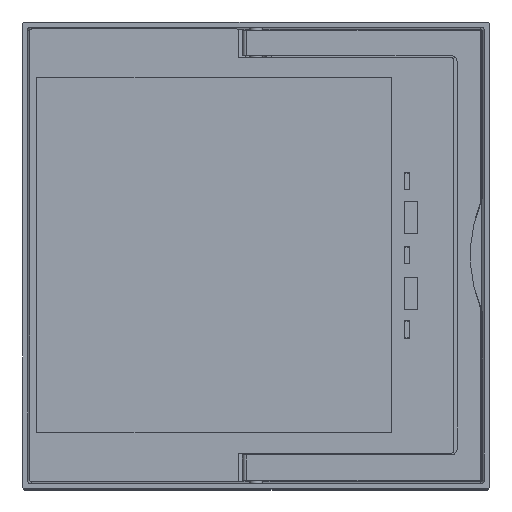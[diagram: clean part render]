
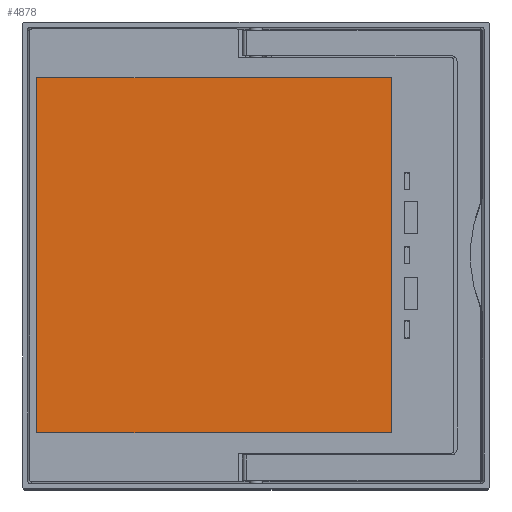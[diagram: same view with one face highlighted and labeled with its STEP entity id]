
A CAD part, top view. The second image highlights one B-rep face of the part: STEP entity #4878.
In plain terms, the highlighted planar face has unit normal (0, 0, 1).
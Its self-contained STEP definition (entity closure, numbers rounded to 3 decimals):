
#226=PLANE('',#5227);
#487=FACE_OUTER_BOUND('',#766,.T.);
#766=EDGE_LOOP('',(#4075,#4076,#4077,#4078));
#1386=LINE('',#8206,#1891);
#1390=LINE('',#8214,#1895);
#1393=LINE('',#8220,#1898);
#1396=LINE('',#8225,#1901);
#1891=VECTOR('',#6203,304.8);
#1895=VECTOR('',#6209,304.8);
#1898=VECTOR('',#6214,304.8);
#1901=VECTOR('',#6219,304.8);
#2356=VERTEX_POINT('',#8204);
#2357=VERTEX_POINT('',#8205);
#2360=VERTEX_POINT('',#8213);
#2362=VERTEX_POINT('',#8219);
#2977=EDGE_CURVE('',#2356,#2357,#1386,.T.);
#2981=EDGE_CURVE('',#2360,#2356,#1390,.T.);
#2984=EDGE_CURVE('',#2362,#2360,#1393,.T.);
#2987=EDGE_CURVE('',#2357,#2362,#1396,.T.);
#4075=ORIENTED_EDGE('',*,*,#2987,.T.);
#4076=ORIENTED_EDGE('',*,*,#2984,.T.);
#4077=ORIENTED_EDGE('',*,*,#2981,.T.);
#4078=ORIENTED_EDGE('',*,*,#2977,.T.);
#4878=ADVANCED_FACE('',(#487),#226,.T.);
#5227=AXIS2_PLACEMENT_3D('',#8228,#6223,#6224);
#6203=DIRECTION('',(-1.,0.,0.));
#6209=DIRECTION('',(0.,1.,0.));
#6214=DIRECTION('',(1.,0.,0.));
#6219=DIRECTION('',(0.,-1.,0.));
#6223=DIRECTION('center_axis',(0.,0.,1.));
#6224=DIRECTION('ref_axis',(0.,-1.,0.));
#8204=CARTESIAN_POINT('',(53.45,69.95,35.2));
#8205=CARTESIAN_POINT('',(-86.45,69.95,35.2));
#8206=CARTESIAN_POINT('',(53.45,69.95,35.2));
#8213=CARTESIAN_POINT('',(53.45,-69.95,35.2));
#8214=CARTESIAN_POINT('',(53.45,-69.95,35.2));
#8219=CARTESIAN_POINT('',(-86.45,-69.95,35.2));
#8220=CARTESIAN_POINT('',(-86.45,-69.95,35.2));
#8225=CARTESIAN_POINT('',(-86.45,69.95,35.2));
#8228=CARTESIAN_POINT('Origin',(-86.45,69.95,35.2));
